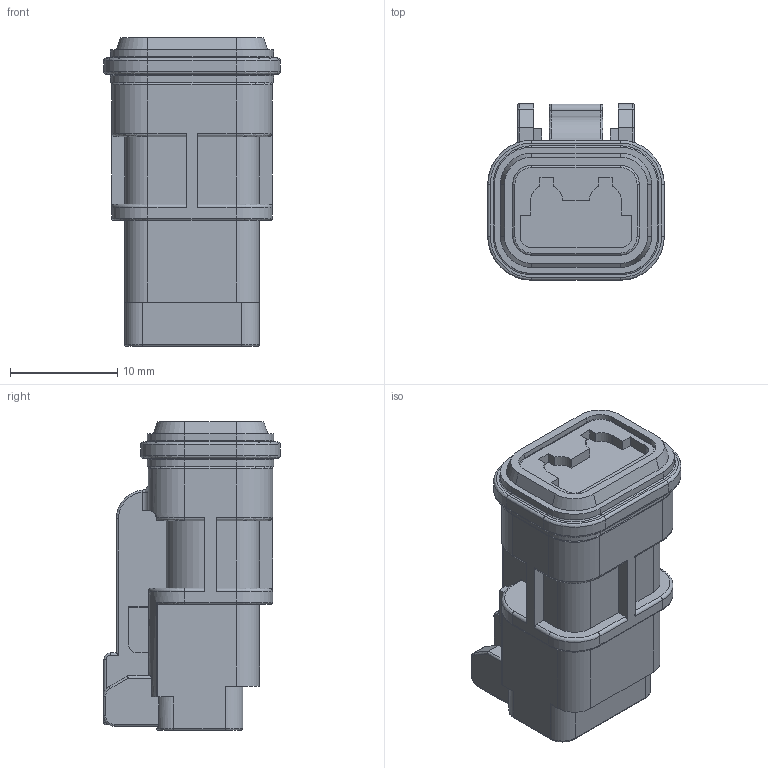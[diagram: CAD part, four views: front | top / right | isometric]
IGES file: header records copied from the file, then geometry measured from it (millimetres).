
Start section:  PTC IGES file: c-2286003-1-b-3d.igs
Global section: file name: c-2286003-1-b-3d.igs; native system: Creo Parametric by Parametric Technology Corporation; preprocessor: 2014090; author: workeradm; organization: Unknown; units: millimetre
Bounding box: 16.47 x 16.51 x 28.8 mm (x, y, z)
Surface area: 2203.6 mm2 (no closed solid volume)
Topology: 0 solids, 0 shells, 305 faces, 1532 edges, 1532 vertices
Faces by surface type: revolution 187, bspline 118
